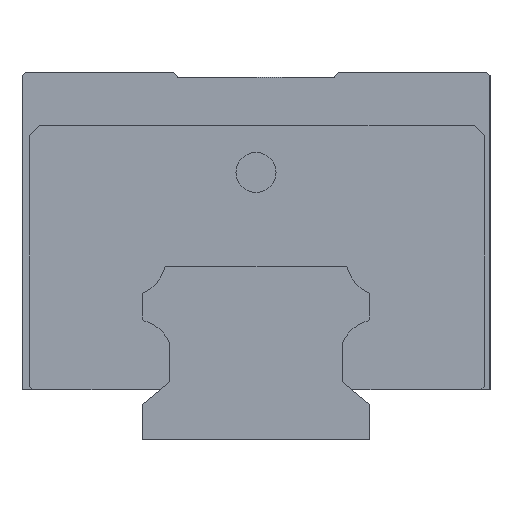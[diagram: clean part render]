
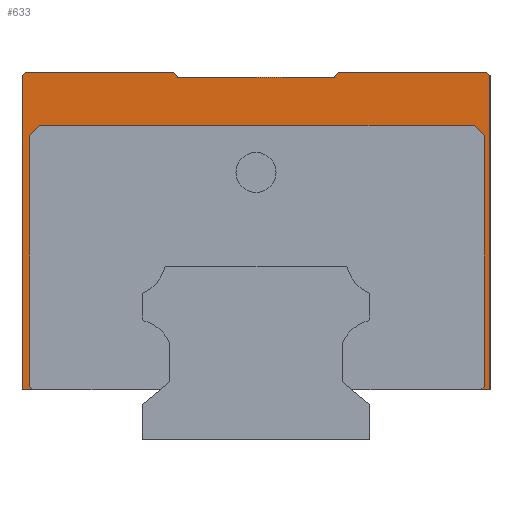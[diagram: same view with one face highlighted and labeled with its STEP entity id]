
A CAD part, left-side view. The second image highlights one B-rep face of the part: STEP entity #633.
In plain terms, the highlighted planar face has unit normal (-1, 0, 0).
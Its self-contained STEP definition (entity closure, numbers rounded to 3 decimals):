
#26 = DIRECTION ( 'NONE',  ( 0., -0.707, -0.707 ) ) ;
#67 = VERTEX_POINT ( 'NONE', #893 ) ;
#85 = DIRECTION ( 'NONE',  ( 0., 0.707, 0.707 ) ) ;
#135 = ORIENTED_EDGE ( 'NONE', *, *, #4099, .T. ) ;
#193 = EDGE_CURVE ( 'NONE', #1787, #744, #3950, .T. ) ;
#251 = CARTESIAN_POINT ( 'NONE',  ( -61.5, 11.667, 54.25 ) ) ;
#256 = VECTOR ( 'NONE', #1844, 1000. ) ;
#307 = EDGE_CURVE ( 'NONE', #1110, #2613, #2327, .T. ) ;
#348 = LINE ( 'NONE', #440, #3825 ) ;
#351 = DIRECTION ( 'NONE',  ( 0., -1., 0. ) ) ;
#392 = VECTOR ( 'NONE', #351, 1000. ) ;
#403 = CARTESIAN_POINT ( 'NONE',  ( -61.5, -35., 55. ) ) ;
#440 = CARTESIAN_POINT ( 'NONE',  ( -61.5, 33.872, 45.5 ) ) ;
#462 = ORIENTED_EDGE ( 'NONE', *, *, #729, .F. ) ;
#510 = VERTEX_POINT ( 'NONE', #251 ) ;
#527 = CARTESIAN_POINT ( 'NONE',  ( -61.5, -12.296, 55. ) ) ;
#577 = LINE ( 'NONE', #5573, #3128 ) ;
#581 = ORIENTED_EDGE ( 'NONE', *, *, #4482, .F. ) ;
#591 = ORIENTED_EDGE ( 'NONE', *, *, #1825, .F. ) ;
#599 = DIRECTION ( 'NONE',  ( 0., 0., 1. ) ) ;
#614 = ORIENTED_EDGE ( 'NONE', *, *, #2278, .F. ) ;
#633 = ADVANCED_FACE ( 'NONE', ( #5667 ), #4440, .F. ) ;
#634 = CARTESIAN_POINT ( 'NONE',  ( -61.5, 35., 54.5 ) ) ;
#716 = DIRECTION ( 'NONE',  ( 0., 1., 0. ) ) ;
#729 = EDGE_CURVE ( 'NONE', #2248, #2167, #3635, .T. ) ;
#744 = VERTEX_POINT ( 'NONE', #2733 ) ;
#807 = ORIENTED_EDGE ( 'NONE', *, *, #5029, .F. ) ;
#819 = DIRECTION ( 'NONE',  ( 0., 1., 0. ) ) ;
#836 = VECTOR ( 'NONE', #4621, 1000. ) ;
#882 = CARTESIAN_POINT ( 'NONE',  ( -61.5, -32.628, 47. ) ) ;
#893 = CARTESIAN_POINT ( 'NONE',  ( -61.5, 35., 7.5 ) ) ;
#933 = CARTESIAN_POINT ( 'NONE',  ( -61.5, 34.5, 55. ) ) ;
#975 = DIRECTION ( 'NONE',  ( 0., 0., 1. ) ) ;
#1023 = CARTESIAN_POINT ( 'NONE',  ( -61.5, 32.372, 47. ) ) ;
#1034 = VECTOR ( 'NONE', #26, 1000. ) ;
#1110 = VERTEX_POINT ( 'NONE', #1905 ) ;
#1129 = CARTESIAN_POINT ( 'NONE',  ( -61.5, -33.628, 7.5 ) ) ;
#1142 = EDGE_CURVE ( 'NONE', #2209, #4687, #1926, .T. ) ;
#1324 = CARTESIAN_POINT ( 'NONE',  ( -61.5, -11.667, 54.25 ) ) ;
#1347 = CARTESIAN_POINT ( 'NONE',  ( -61.5, 11.667, 54.25 ) ) ;
#1381 = CARTESIAN_POINT ( 'NONE',  ( -61.5, 35., 7.5 ) ) ;
#1430 = EDGE_CURVE ( 'NONE', #2965, #2209, #5302, .T. ) ;
#1445 = ORIENTED_EDGE ( 'NONE', *, *, #1430, .F. ) ;
#1446 = ORIENTED_EDGE ( 'NONE', *, *, #307, .F. ) ;
#1447 = EDGE_CURVE ( 'NONE', #3542, #4613, #3091, .T. ) ;
#1465 = VECTOR ( 'NONE', #5031, 1000. ) ;
#1477 = CARTESIAN_POINT ( 'NONE',  ( -61.5, -12.296, 55. ) ) ;
#1535 = DIRECTION ( 'NONE',  ( 0., -0.707, 0.707 ) ) ;
#1612 = EDGE_CURVE ( 'NONE', #510, #2613, #4575, .T. ) ;
#1632 = CARTESIAN_POINT ( 'NONE',  ( -61.5, -35., 54.5 ) ) ;
#1686 = LINE ( 'NONE', #5311, #2634 ) ;
#1763 = VECTOR ( 'NONE', #85, 1000. ) ;
#1783 = LINE ( 'NONE', #933, #3256 ) ;
#1787 = VERTEX_POINT ( 'NONE', #1477 ) ;
#1821 = CARTESIAN_POINT ( 'NONE',  ( -61.5, -34.128, 45.5 ) ) ;
#1825 = EDGE_CURVE ( 'NONE', #2838, #5155, #1984, .T. ) ;
#1844 = DIRECTION ( 'NONE',  ( 0., 0.643, 0.766 ) ) ;
#1904 = CARTESIAN_POINT ( 'NONE',  ( -61.5, -35., 54.5 ) ) ;
#1905 = CARTESIAN_POINT ( 'NONE',  ( -61.5, 34.5, 55. ) ) ;
#1926 = LINE ( 'NONE', #1023, #4595 ) ;
#1945 = CARTESIAN_POINT ( 'NONE',  ( -61.5, -34.128, 45.5 ) ) ;
#1984 = LINE ( 'NONE', #1129, #5616 ) ;
#1995 = ORIENTED_EDGE ( 'NONE', *, *, #3255, .F. ) ;
#2025 = CARTESIAN_POINT ( 'NONE',  ( -61.5, 35., 55. ) ) ;
#2033 = ORIENTED_EDGE ( 'NONE', *, *, #1142, .F. ) ;
#2167 = VERTEX_POINT ( 'NONE', #2390 ) ;
#2204 = DIRECTION ( 'NONE',  ( 1., 0., 0. ) ) ;
#2209 = VERTEX_POINT ( 'NONE', #3798 ) ;
#2211 = DIRECTION ( 'NONE',  ( 0., 0., -1. ) ) ;
#2248 = VERTEX_POINT ( 'NONE', #3391 ) ;
#2278 = EDGE_CURVE ( 'NONE', #4613, #2838, #1686, .T. ) ;
#2280 = VECTOR ( 'NONE', #2621, 1000. ) ;
#2327 = LINE ( 'NONE', #2025, #2280 ) ;
#2382 = LINE ( 'NONE', #1381, #3582 ) ;
#2390 = CARTESIAN_POINT ( 'NONE',  ( -61.5, 33.372, 7.5 ) ) ;
#2563 = CARTESIAN_POINT ( 'NONE',  ( -61.5, 35., 55. ) ) ;
#2572 = DIRECTION ( 'NONE',  ( 0., 1., 0. ) ) ;
#2574 = EDGE_CURVE ( 'NONE', #5308, #510, #577, .T. ) ;
#2613 = VERTEX_POINT ( 'NONE', #4242 ) ;
#2621 = DIRECTION ( 'NONE',  ( 0., -1., 0. ) ) ;
#2634 = VECTOR ( 'NONE', #2572, 1000. ) ;
#2733 = CARTESIAN_POINT ( 'NONE',  ( -61.5, -34.5, 55. ) ) ;
#2829 = CARTESIAN_POINT ( 'NONE',  ( -61.5, -33.628, 7.5 ) ) ;
#2838 = VERTEX_POINT ( 'NONE', #2829 ) ;
#2881 = ORIENTED_EDGE ( 'NONE', *, *, #4526, .T. ) ;
#2898 = DIRECTION ( 'NONE',  ( 0., 1., 0. ) ) ;
#2965 = VERTEX_POINT ( 'NONE', #4200 ) ;
#2978 = VERTEX_POINT ( 'NONE', #634 ) ;
#3091 = LINE ( 'NONE', #4858, #4976 ) ;
#3128 = VECTOR ( 'NONE', #2898, 1000. ) ;
#3180 = CARTESIAN_POINT ( 'NONE',  ( -61.5, 14.65, 7.5 ) ) ;
#3255 = EDGE_CURVE ( 'NONE', #5002, #2965, #5053, .T. ) ;
#3256 = VECTOR ( 'NONE', #4083, 1000. ) ;
#3346 = CARTESIAN_POINT ( 'NONE',  ( -61.5, -35., 7.5 ) ) ;
#3388 = ORIENTED_EDGE ( 'NONE', *, *, #1447, .F. ) ;
#3391 = CARTESIAN_POINT ( 'NONE',  ( -61.5, 33.872, 8. ) ) ;
#3453 = VECTOR ( 'NONE', #4977, 1000. ) ;
#3466 = CARTESIAN_POINT ( 'NONE',  ( -61.5, 33.872, 45.5 ) ) ;
#3478 = ORIENTED_EDGE ( 'NONE', *, *, #1612, .T. ) ;
#3542 = VERTEX_POINT ( 'NONE', #1632 ) ;
#3582 = VECTOR ( 'NONE', #975, 1000. ) ;
#3606 = DIRECTION ( 'NONE',  ( 0., 0.707, -0.707 ) ) ;
#3635 = LINE ( 'NONE', #4081, #1034 ) ;
#3693 = EDGE_CURVE ( 'NONE', #1110, #2978, #1783, .T. ) ;
#3735 = VECTOR ( 'NONE', #819, 1000. ) ;
#3798 = CARTESIAN_POINT ( 'NONE',  ( -61.5, 32.372, 47. ) ) ;
#3825 = VECTOR ( 'NONE', #5328, 1000. ) ;
#3950 = LINE ( 'NONE', #2563, #392 ) ;
#4081 = CARTESIAN_POINT ( 'NONE',  ( -61.5, 33.872, 8. ) ) ;
#4083 = DIRECTION ( 'NONE',  ( 0., 0.707, -0.707 ) ) ;
#4099 = EDGE_CURVE ( 'NONE', #1787, #5308, #5474, .T. ) ;
#4107 = LINE ( 'NONE', #4633, #4981 ) ;
#4123 = EDGE_CURVE ( 'NONE', #67, #2978, #2382, .T. ) ;
#4200 = CARTESIAN_POINT ( 'NONE',  ( -61.5, -32.628, 47. ) ) ;
#4242 = CARTESIAN_POINT ( 'NONE',  ( -61.5, 12.296, 55. ) ) ;
#4362 = EDGE_CURVE ( 'NONE', #4687, #2248, #348, .T. ) ;
#4440 = PLANE ( 'NONE',  #4994 ) ;
#4482 = EDGE_CURVE ( 'NONE', #2167, #67, #4504, .T. ) ;
#4495 = EDGE_LOOP ( 'NONE', ( #807, #591, #614, #3388, #2881, #5734, #135, #5315, #3478, #1446, #5341, #5202, #581, #462, #5516, #2033, #1445, #1995 ) ) ;
#4504 = LINE ( 'NONE', #3180, #3453 ) ;
#4526 = EDGE_CURVE ( 'NONE', #3542, #744, #5058, .T. ) ;
#4575 = LINE ( 'NONE', #1347, #256 ) ;
#4595 = VECTOR ( 'NONE', #3606, 1000. ) ;
#4613 = VERTEX_POINT ( 'NONE', #3346 ) ;
#4621 = DIRECTION ( 'NONE',  ( 0., 0.643, -0.766 ) ) ;
#4633 = CARTESIAN_POINT ( 'NONE',  ( -61.5, -34.128, 8. ) ) ;
#4687 = VERTEX_POINT ( 'NONE', #3466 ) ;
#4858 = CARTESIAN_POINT ( 'NONE',  ( -61.5, -35., 55. ) ) ;
#4976 = VECTOR ( 'NONE', #2211, 1000. ) ;
#4977 = DIRECTION ( 'NONE',  ( 0., 1., 0. ) ) ;
#4981 = VECTOR ( 'NONE', #599, 1000. ) ;
#4994 = AXIS2_PLACEMENT_3D ( 'NONE', #403, #2204, #716 ) ;
#5002 = VERTEX_POINT ( 'NONE', #1945 ) ;
#5029 = EDGE_CURVE ( 'NONE', #5155, #5002, #4107, .T. ) ;
#5031 = DIRECTION ( 'NONE',  ( 0., 0.707, 0.707 ) ) ;
#5053 = LINE ( 'NONE', #1821, #1465 ) ;
#5058 = LINE ( 'NONE', #1904, #1763 ) ;
#5155 = VERTEX_POINT ( 'NONE', #5694 ) ;
#5202 = ORIENTED_EDGE ( 'NONE', *, *, #4123, .F. ) ;
#5302 = LINE ( 'NONE', #882, #3735 ) ;
#5308 = VERTEX_POINT ( 'NONE', #1324 ) ;
#5311 = CARTESIAN_POINT ( 'NONE',  ( -61.5, -35., 7.5 ) ) ;
#5315 = ORIENTED_EDGE ( 'NONE', *, *, #2574, .T. ) ;
#5328 = DIRECTION ( 'NONE',  ( 0., 0., -1. ) ) ;
#5341 = ORIENTED_EDGE ( 'NONE', *, *, #3693, .T. ) ;
#5474 = LINE ( 'NONE', #527, #836 ) ;
#5516 = ORIENTED_EDGE ( 'NONE', *, *, #4362, .F. ) ;
#5573 = CARTESIAN_POINT ( 'NONE',  ( -61.5, -11.667, 54.25 ) ) ;
#5616 = VECTOR ( 'NONE', #1535, 1000. ) ;
#5667 = FACE_OUTER_BOUND ( 'NONE', #4495, .T. ) ;
#5694 = CARTESIAN_POINT ( 'NONE',  ( -61.5, -34.128, 8. ) ) ;
#5734 = ORIENTED_EDGE ( 'NONE', *, *, #193, .F. ) ;
